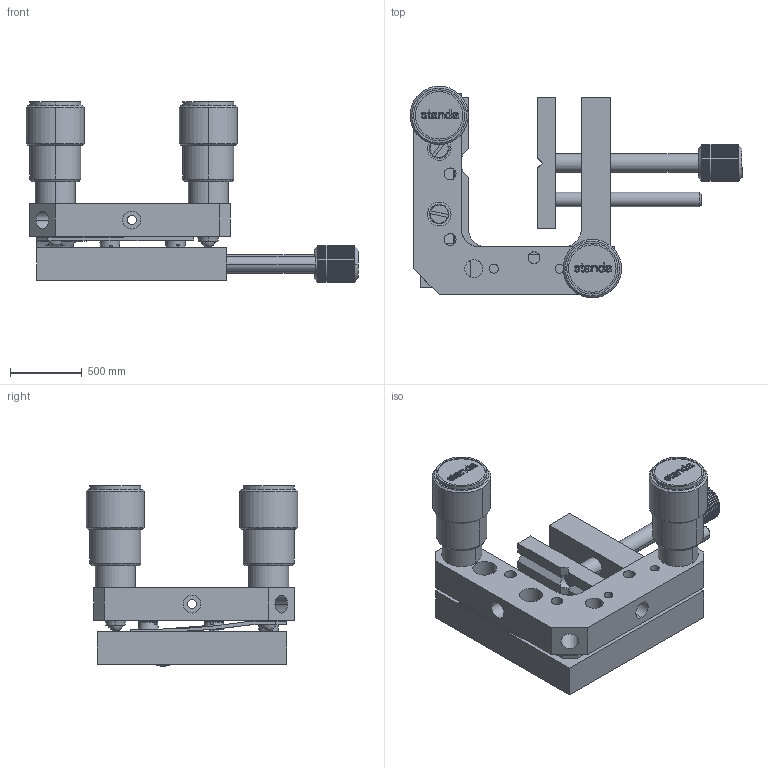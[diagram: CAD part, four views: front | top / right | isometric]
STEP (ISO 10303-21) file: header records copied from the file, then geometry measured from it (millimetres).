
FILE_DESCRIPTION (( 'STEP AP203' ), '1' );
FILE_NAME ('5OM37-20.STEP', '2008-12-05T14:27:11', ( 'Darius' ), ( '' ), 'SwSTEP 2.0', 'SolidWorks 2003240', '' );
FILE_SCHEMA (( 'CONFIG_CONTROL_DESIGN' ));
Products named in the file (1): 5OM37-20
Bounding box: 2312.59 x 1473.2 x 1257.17 mm (x, y, z)
Volume: 555087753 mm3; surface area: 13039399.4 mm2
Topology: 1 solids, 3 shells, 1063 faces, 2709 edges, 1725 vertices
Faces by surface type: plane 607, bspline 282, cylinder 120, cone 51, torus 3
Entity records: 72315 total; most frequent: CARTESIAN_POINT 48184, ORIENTED_EDGE 5402, DIRECTION 4212, EDGE_CURVE 2701, VERTEX_POINT 1725, VECTOR 1526, LINE 1526, AXIS2_PLACEMENT_3D 1343
